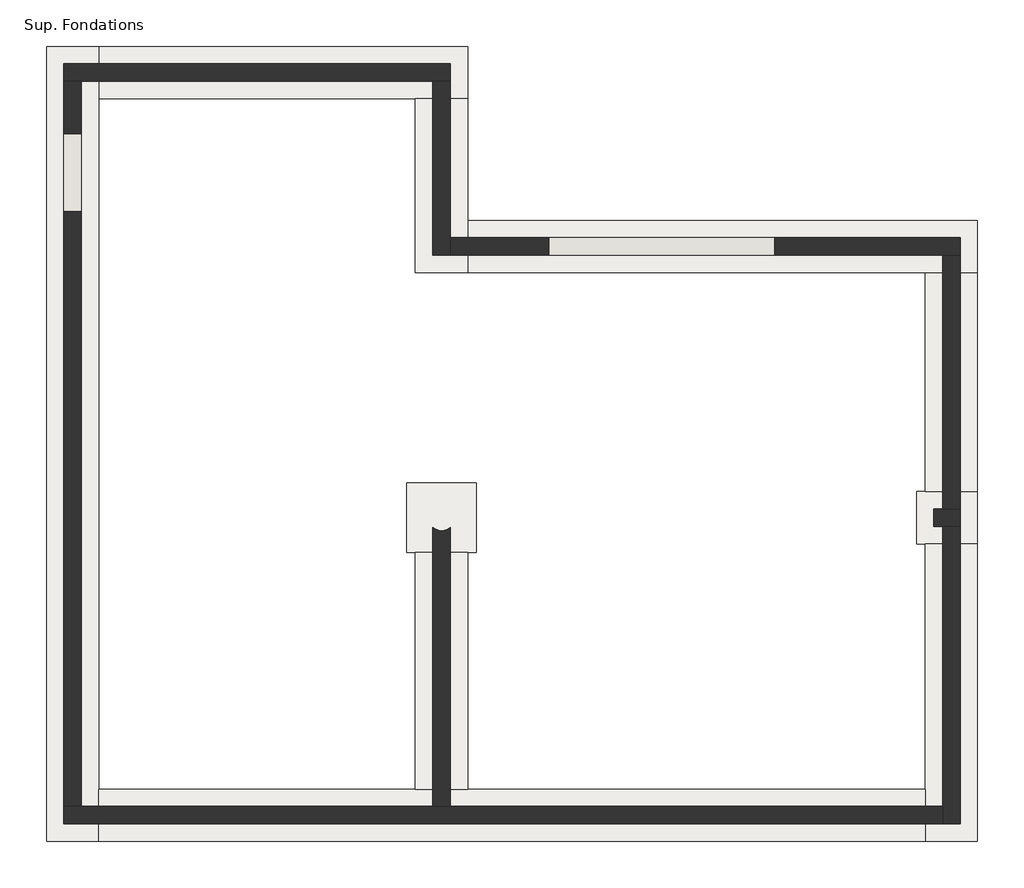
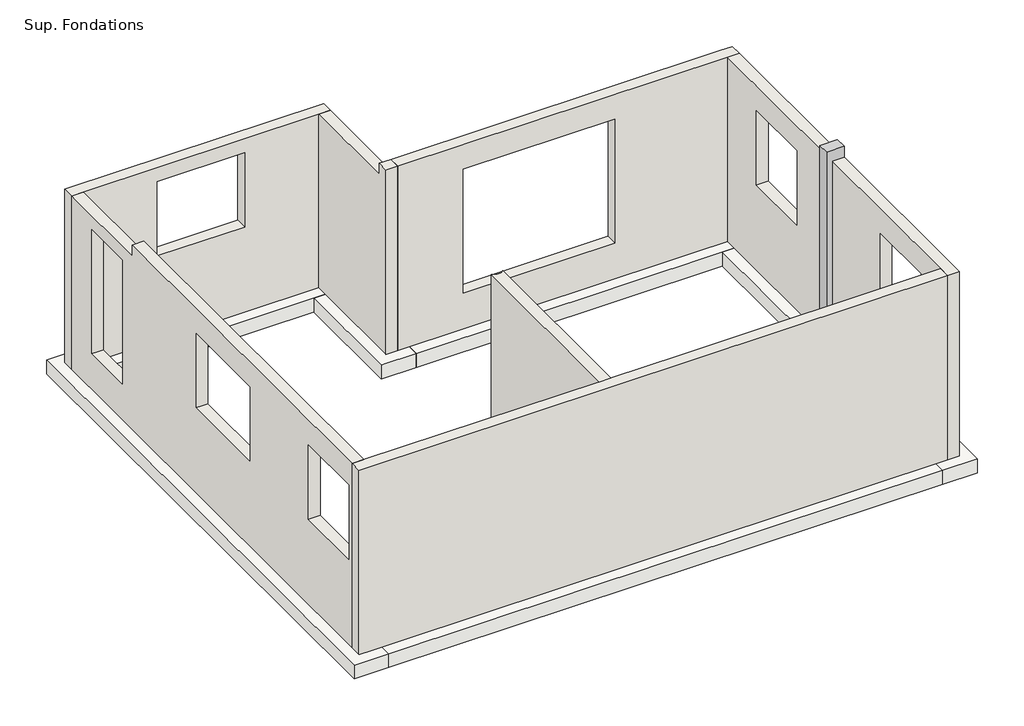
# One storey, incomplete: 7 footings, 7 walls, 2 slabs, 1 column.
"""IFC4 building model written with IfcOpenShell, lengths in millimetres."""

from ifc_helpers import new_model, si_unit, point, frame, frame_2d, origin, place, context, project, spatial, polyline, circle_curve, trimmed, segment, composite_curve, outline, extrude, faceted_brep, element, save

model = new_model("IFC4")

# Units and contexts
model_context = context("Model", 3, world=origin())
ifc_project = project(units=[si_unit("LENGTHUNIT", "METRE", prefix="MILLI")], contexts=[model_context])

# Site, building, storey
site = spatial("IfcSite", under=ifc_project)
building = spatial("IfcBuilding", under=site)
storey = spatial("IfcBuildingStorey", under=building, Name="Sup. Fondations", Elevation=-650.0)

# Column
placement = place(None, origin())
element("IfcColumn", 1, ObjectType="LMO Poteau porteur rectangulaire : LMO Rectangulaire", at=placement, inside=storey, context=model_context, shape_type="Brep", body=[
    faceted_brep([(1554.7267442, -8665.2827088, -650.0), (1354.7267442, -8665.2827088, -650.0), (1254.7267442, -8665.2827088, -650.0), (1254.7267442, -8465.2827088, -650.0), (1354.7267442, -8465.2827088, -650.0), (1554.7267442, -8465.2827088, -650.0), (1554.7267442, -8665.2827088, 2900.0), (1254.7267442, -8665.2827088, 2900.0), (1254.7267442, -8665.2827088, 2700.0), (1554.7267442, -8665.2827088, 2700.0), (1254.7267442, -8465.2827088, 2900.0), (1254.7267442, -8465.2827088, 2700.0), (1554.7267442, -8465.2827088, 2900.0), (1554.7267442, -8465.2827088, 2700.0)], [[[0, 1, 2, 3, 4, 5]], [[6, 7, 8, 2, 1, 0, 9]], [[7, 10, 11, 3, 2, 8]], [[10, 12, 13, 5, 4, 3, 11]], [[12, 6, 9, 0, 5, 13]], [[6, 12, 10, 7]]]),
])

# Footings
element("IfcFooting", 2, ObjectType="S600", at=placement, inside=storey, context=model_context, shape_type="Brep", body=[
    faceted_brep([(-8345.2732558, -12285.2827088, -650.0), (-8345.2732558, -11685.2827088, -650.0), (-8345.2732558, -3745.2827088, -650.0), (-8345.2732558, -3145.2827088, -650.0), (-8945.2732558, -3145.2827088, -650.0), (-8945.2732558, -12285.2827088, -650.0), (-8945.2732558, -12285.2827088, -900.0), (-8945.2732558, -3145.2827088, -900.0), (-8345.2732558, -12285.2827088, -900.0), (-8345.2732558, -3145.2827088, -900.0), (-8345.2732558, -3745.2827088, -900.0), (-8345.2732558, -11685.2827088, -900.0)], [[[0, 1, 2, 3, 4, 5]], [[6, 5, 4, 7]], [[8, 6, 7, 9, 10, 11]], [[0, 8, 11, 10, 9, 3, 2, 1]], [[4, 3, 9, 7]], [[0, 5, 6, 8]]]),
])
element("IfcFooting", 3, ObjectType="S600", at=placement, inside=storey, context=model_context, shape_type="Brep", body=[
    faceted_brep([(-4105.2732558, -3745.2827088, -650.0), (-4105.2732558, -3145.2827088, -650.0), (-8345.2732558, -3145.2827088, -650.0), (-8345.2732558, -3745.2827088, -650.0), (-4705.2732558, -3745.2827088, -650.0), (-4105.2732558, -3145.2827088, -900.0), (-8345.2732558, -3145.2827088, -900.0), (-4105.2732558, -3745.2827088, -900.0), (-4705.2732558, -3745.2827088, -900.0), (-8345.2732558, -3745.2827088, -900.0)], [[[0, 1, 2, 3, 4]], [[1, 5, 6, 2]], [[5, 7, 8, 9, 6]], [[7, 0, 4, 3, 9, 8]], [[3, 2, 6, 9]], [[1, 0, 7, 5]]]),
])
element("IfcFooting", 4, ObjectType="S600", at=placement, inside=storey, context=model_context, shape_type="Brep", body=[
    faceted_brep([(-4705.2732558, -5745.2827088, -650.0), (-4105.2732558, -5745.2827088, -650.0), (-4105.2732558, -5145.2827088, -650.0), (-4105.2732558, -3745.2827088, -650.0), (-4705.2732558, -3745.2827088, -650.0), (-4105.2732558, -5745.2827088, -900.0), (-4105.2732558, -5145.2827088, -900.0), (-4105.2732558, -3745.2827088, -900.0), (-4705.2732558, -5745.2827088, -900.0), (-4705.2732558, -3745.2827088, -900.0)], [[[0, 1, 2, 3, 4]], [[1, 5, 6, 7, 3, 2]], [[5, 8, 9, 7, 6]], [[8, 0, 4, 9]], [[4, 3, 7, 9]], [[1, 0, 8, 5]]]),
])
element("IfcFooting", 5, ObjectType="S600", at=placement, inside=storey, context=model_context, shape_type="Brep", body=[
    faceted_brep([(1754.7267442, -5745.2827088, -650.0), (1754.7267442, -5145.2827088, -650.0), (-4105.2732558, -5145.2827088, -650.0), (-4105.2732558, -5745.2827088, -650.0), (1154.7267442, -5745.2827088, -650.0), (1754.7267442, -5145.2827088, -900.0), (-4105.2732558, -5145.2827088, -900.0), (1754.7267442, -5745.2827088, -900.0), (1154.7267442, -5745.2827088, -900.0), (-4105.2732558, -5745.2827088, -900.0)], [[[0, 1, 2, 3, 4]], [[1, 5, 6, 2]], [[5, 7, 8, 9, 6]], [[7, 0, 4, 3, 9, 8]], [[3, 2, 6, 9]], [[1, 0, 7, 5]]]),
])
element("IfcFooting", 6, ObjectType="S600", at=placement, inside=storey, context=model_context, shape_type="Brep", body=[
    faceted_brep([(1754.7267442, -5745.2827088, -650.0), (1154.7267442, -5745.2827088, -650.0), (1154.7267442, -8265.2827088, -650.0), (1754.7267442, -8265.2827088, -650.0), (1754.7267442, -5745.2827088, -900.0), (1754.7267442, -8265.2827088, -900.0), (1154.7267442, -5745.2827088, -900.0), (1154.7267442, -8265.2827088, -900.0)], [[[0, 1, 2, 3]], [[4, 0, 3, 5]], [[6, 4, 5, 7]], [[1, 6, 7, 2]], [[1, 0, 4, 6]], [[3, 2, 7, 5]]]),
    faceted_brep([(1154.7267442, -12285.2827088, -650.0), (1754.7267442, -12285.2827088, -650.0), (1754.7267442, -8865.2827088, -650.0), (1154.7267442, -8865.2827088, -650.0), (1154.7267442, -11685.2827088, -650.0), (1754.7267442, -12285.2827088, -900.0), (1754.7267442, -8865.2827088, -900.0), (1154.7267442, -12285.2827088, -900.0), (1154.7267442, -11685.2827088, -900.0), (1154.7267442, -8865.2827088, -900.0)], [[[0, 1, 2, 3, 4]], [[1, 5, 6, 2]], [[5, 7, 8, 9, 6]], [[7, 0, 4, 3, 9, 8]], [[1, 0, 7, 5]], [[3, 2, 6, 9]]]),
])
element("IfcFooting", 7, ObjectType="S600", at=placement, inside=storey, context=model_context, shape_type="Brep", body=[
    faceted_brep([(-8345.2732558, -11685.2827088, -650.0), (-8345.2732558, -12285.2827088, -650.0), (1154.7267442, -12285.2827088, -650.0), (1154.7267442, -11685.2827088, -650.0), (-4105.2732558, -11685.2827088, -650.0), (-4705.2732558, -11685.2827088, -650.0), (-8345.2732558, -12285.2827088, -900.0), (1154.7267442, -12285.2827088, -900.0), (-8345.2732558, -11685.2827088, -900.0), (-4705.2732558, -11685.2827088, -900.0), (-4105.2732558, -11685.2827088, -900.0), (1154.7267442, -11685.2827088, -900.0)], [[[0, 1, 2, 3, 4, 5]], [[1, 6, 7, 2]], [[6, 8, 9, 10, 11, 7]], [[8, 0, 5, 4, 3, 11, 10, 9]], [[1, 0, 8, 6]], [[3, 2, 7, 11]]]),
])
element("IfcFooting", 8, ObjectType="S600", at=placement, inside=storey, context=model_context, shape_type="SweptSolid", body=[
    extrude(outline(polyline([(-4105.2732558, -11685.2827088), (-4705.2732558, -11685.2827088), (-4705.2732558, -8965.2827088), (-4105.2732558, -8965.2827088), (-4105.2732558, -11685.2827088)])), frame((0.0, 0.0, -900.0), z_axis=(0.0, 0.0, 1.0), x_axis=(1.0, 0.0, 0.0)), (0.0, 0.0, 1.0), 250.0),
])

# Slabs
element("IfcSlab", 9, ObjectType="LMO Semelle isolée : LMO Semelle isolée", at=placement, inside=storey, context=model_context, shape_type="Brep", body=[
    faceted_brep([(1754.7267442, -8265.2827088, -650.0), (1154.7267442, -8265.2827088, -650.0), (1054.7267442, -8265.2827088, -650.0), (1054.7267442, -8865.2827088, -650.0), (1154.7267442, -8865.2827088, -650.0), (1754.7267442, -8865.2827088, -650.0), (1754.7267442, -8265.2827088, -950.0), (1754.7267442, -8865.2827088, -950.0), (1054.7267442, -8865.2827088, -950.0), (1054.7267442, -8265.2827088, -950.0), (1754.7267442, -8265.2827088, -900.0), (1754.7267442, -8865.2827088, -900.0)], [[[0, 1, 2, 3, 4, 5]], [[6, 7, 8, 9]], [[2, 1, 0, 10, 6, 9]], [[3, 2, 9, 8]], [[5, 4, 3, 8, 7, 11]], [[0, 5, 11, 7, 6, 10]]]),
])
element("IfcSlab", 10, ObjectType="LMO Semelle isolée : LMO Semelle isolée", at=placement, inside=storey, context=model_context, shape_type="Brep", body=[
    faceted_brep([(-4005.2732558, -8165.2827088, -650.0), (-4805.2732558, -8165.2827088, -650.0), (-4805.2732558, -8965.2827088, -650.0), (-4705.2732558, -8965.2827088, -650.0), (-4105.2732558, -8965.2827088, -650.0), (-4005.2732558, -8965.2827088, -650.0), (-4005.2732558, -8165.2827088, -950.0), (-4005.2732558, -8965.2827088, -950.0), (-4805.2732558, -8965.2827088, -950.0), (-4805.2732558, -8165.2827088, -950.0)], [[[0, 1, 2, 3, 4, 5]], [[6, 7, 8, 9]], [[1, 0, 6, 9]], [[2, 1, 9, 8]], [[5, 4, 3, 2, 8, 7]], [[0, 5, 7, 6]]]),
])

# Walls
element("IfcWall", 11, ObjectType="Générique - 200 mm", at=placement, inside=storey, context=model_context, shape_type="Brep", body=[
    faceted_brep([(-8745.2732558, -3545.2827088, -650.0), (-8545.2732558, -3545.2827088, -650.0), (-4505.2732558, -3545.2827088, -650.0), (-4305.2732558, -3545.2827088, -650.0), (-4305.2732558, -3545.2827088, 2500.0), (-4505.2732558, -3545.2827088, 2500.0), (-8545.2732558, -3545.2827088, 2500.0), (-8745.2732558, -3545.2827088, 2500.0), (-7275.2732558, -3545.2827088, 2250.0), (-5775.2732558, -3545.2827088, 2250.0), (-5775.2732558, -3545.2827088, 900.0), (-7275.2732558, -3545.2827088, 900.0), (-8745.2732558, -3345.2827088, -650.0), (-8745.2732558, -3345.2827088, 2500.0), (-4305.2732558, -3345.2827088, 2500.0), (-4305.2732558, -3345.2827088, -650.0), (-7275.2732558, -3345.2827088, 2250.0), (-7275.2732558, -3345.2827088, 900.0), (-5775.2732558, -3345.2827088, 900.0), (-5775.2732558, -3345.2827088, 2250.0)], [[[0, 1, 2, 3, 4, 5, 6, 7], [8, 9, 10, 11]], [[12, 13, 14, 15], [16, 17, 18, 19]], [[3, 2, 1, 0, 12, 15]], [[4, 3, 15, 14]], [[0, 7, 13, 12]], [[7, 6, 5, 4, 14, 13]], [[17, 16, 8, 11]], [[18, 17, 11, 10]], [[19, 18, 10, 9]], [[16, 19, 9, 8]]]),
])
element("IfcWall", 12, ObjectType="Générique - 200 mm", at=placement, inside=storey, context=model_context, shape_type="Brep", body=[
    faceted_brep([(-4505.2732558, -3545.2827088, -650.0), (-4505.2732558, -5545.2827088, -650.0), (-4505.2732558, -5545.2827088, 2700.0), (-4505.2732558, -5345.2827088, 2700.0), (-4505.2732558, -5345.2827088, 2500.0), (-4505.2732558, -3545.2827088, 2500.0), (-4305.2732558, -3545.2827088, -650.0), (-4305.2732558, -3545.2827088, 2500.0), (-4305.2732558, -5345.2827088, 2500.0), (-4305.2732558, -5345.2827088, 2700.0), (-4305.2732558, -5545.2827088, 2700.0), (-4305.2732558, -5545.2827088, -650.0), (-4305.2732558, -5345.2827088, -650.0)], [[[0, 1, 2, 3, 4, 5]], [[6, 7, 8, 9, 10, 11, 12]], [[1, 0, 6, 12, 11]], [[0, 5, 7, 6]], [[2, 1, 11, 10]], [[3, 9, 8, 4]], [[3, 2, 10, 9]], [[5, 4, 8, 7]]]),
])
element("IfcWall", 13, ObjectType="Générique - 200 mm", at=placement, inside=storey, context=model_context, shape_type="Brep", body=[
    faceted_brep([(-4305.2732558, -5545.2827088, -650.0), (1354.7267442, -5545.2827088, -650.0), (1554.7267442, -5545.2827088, -650.0), (1554.7267442, -5545.2827088, 2700.0), (1354.7267442, -5545.2827088, 2700.0), (-4305.2732558, -5545.2827088, 2700.0), (-575.2732558, -5545.2827088, 2250.0), (-575.2732558, -5545.2827088, 0.0), (-3175.2732558, -5545.2827088, 0.0), (-3175.2732558, -5545.2827088, 2250.0), (-4305.2732558, -5345.2827088, -650.0), (-4305.2732558, -5345.2827088, 2500.0), (-4305.2732558, -5345.2827088, 2700.0), (1354.7267442, -5345.2827088, 2700.0), (1554.7267442, -5345.2827088, 2700.0), (1554.7267442, -5345.2827088, 2500.0), (1554.7267442, -5345.2827088, -650.0), (-575.2732558, -5345.2827088, 2250.0), (-3175.2732558, -5345.2827088, 2250.0), (-3175.2732558, -5345.2827088, 0.0), (-575.2732558, -5345.2827088, 0.0)], [[[0, 1, 2, 3, 4, 5], [6, 7, 8, 9]], [[10, 11, 12, 13, 14, 15, 16], [17, 18, 19, 20]], [[2, 1, 0, 10, 16]], [[0, 5, 12, 11, 10]], [[3, 2, 16, 15, 14]], [[5, 4, 3, 14, 13, 12]], [[7, 6, 17, 20]], [[8, 7, 20, 19]], [[9, 8, 19, 18]], [[6, 9, 18, 17]]]),
])
element("IfcWall", 14, ObjectType="Générique - 200 mm", at=placement, inside=storey, context=model_context, shape_type="Brep", body=[
    faceted_brep([(1354.7267442, -5545.2827088, 2700.0), (1354.7267442, -5545.2827088, -650.0), (1354.7267442, -8465.2827088, -650.0), (1354.7267442, -8465.2827088, 2700.0), (1354.7267442, -7605.2827088, 2250.0), (1354.7267442, -7605.2827088, 900.0), (1354.7267442, -6405.2827088, 900.0), (1354.7267442, -6405.2827088, 2250.0), (1554.7267442, -5545.2827088, -650.0), (1554.7267442, -5545.2827088, 2700.0), (1554.7267442, -8465.2827088, 2700.0), (1554.7267442, -8465.2827088, -650.0), (1554.7267442, -7605.2827088, 900.0), (1554.7267442, -7605.2827088, 2250.0), (1554.7267442, -6405.2827088, 2250.0), (1554.7267442, -6405.2827088, 900.0)], [[[0, 1, 2, 3], [4, 5, 6, 7]], [[8, 9, 10, 11], [12, 13, 14, 15]], [[1, 8, 11, 2]], [[1, 0, 9, 8]], [[3, 2, 11, 10]], [[9, 0, 3, 10]], [[5, 4, 13, 12]], [[6, 5, 12, 15]], [[7, 6, 15, 14]], [[4, 7, 14, 13]]]),
    faceted_brep([(1354.7267442, -12085.2827088, -650.0), (1354.7267442, -12085.2827088, 2700.0), (1354.7267442, -11885.2827088, 2700.0), (1354.7267442, -8665.2827088, 2700.0), (1354.7267442, -8665.2827088, -650.0), (1354.7267442, -11885.2827088, -650.0), (1354.7267442, -11285.2827088, 2250.0), (1354.7267442, -11285.2827088, 900.0), (1354.7267442, -10085.2827088, 900.0), (1354.7267442, -10085.2827088, 2250.0), (1554.7267442, -12085.2827088, 2700.0), (1554.7267442, -12085.2827088, -650.0), (1554.7267442, -8665.2827088, -650.0), (1554.7267442, -8665.2827088, 2700.0), (1554.7267442, -11285.2827088, 900.0), (1554.7267442, -11285.2827088, 2250.0), (1554.7267442, -10085.2827088, 2250.0), (1554.7267442, -10085.2827088, 900.0)], [[[0, 1, 2, 3, 4, 5], [6, 7, 8, 9]], [[10, 11, 12, 13], [14, 15, 16, 17]], [[11, 0, 5, 4, 12]], [[1, 0, 11, 10]], [[4, 3, 13, 12]], [[1, 10, 13, 3, 2]], [[7, 6, 15, 14]], [[8, 7, 14, 17]], [[9, 8, 17, 16]], [[6, 9, 16, 15]]]),
])
element("IfcWall", 15, ObjectType="Générique - 200 mm", at=placement, inside=storey, context=model_context, shape_type="Brep", body=[
    faceted_brep([(1354.7267442, -11885.2827088, -650.0), (-4305.2732558, -11885.2827088, -650.0), (-4505.2732558, -11885.2827088, -650.0), (-8545.2732558, -11885.2827088, -650.0), (-8745.2732558, -11885.2827088, -650.0), (-8745.2732558, -11885.2827088, 2700.0), (-8545.2732558, -11885.2827088, 2700.0), (-4505.2732558, -11885.2827088, 2700.0), (-4305.2732558, -11885.2827088, 2700.0), (-3105.2732558, -11885.2827088, 2700.0), (1354.7267442, -11885.2827088, 2700.0), (1354.7267442, -12085.2827088, -650.0), (1354.7267442, -12085.2827088, 2700.0), (-8745.2732558, -12085.2827088, 2700.0), (-8745.2732558, -12085.2827088, -650.0)], [[[0, 1, 2, 3, 4, 5, 6, 7, 8, 9, 10]], [[11, 12, 13, 14]], [[4, 3, 2, 1, 0, 11, 14]], [[0, 10, 12, 11]], [[5, 4, 14, 13]], [[10, 9, 8, 7, 6, 5, 13, 12]]]),
])
element("IfcWall", 16, ObjectType="Générique - 200 mm", at=placement, inside=storey, context=model_context, shape_type="Brep", body=[
    faceted_brep([(-8545.2732558, -11885.2827088, -650.0), (-8545.2732558, -3545.2827088, -650.0), (-8545.2732558, -3545.2827088, 2500.0), (-8545.2732558, -5345.2827088, 2500.0), (-8545.2732558, -5345.2827088, 2700.0), (-8545.2732558, -5545.2827088, 2700.0), (-8545.2732558, -11885.2827088, 2700.0), (-8545.2732558, -4145.2827088, 2250.0), (-8545.2732558, -4145.2827088, 0.0), (-8545.2732558, -5045.2827088, 0.0), (-8545.2732558, -5045.2827088, 2250.0), (-8545.2732558, -7245.2827088, 2250.0), (-8545.2732558, -7245.2827088, 900.0), (-8545.2732558, -8845.2827088, 900.0), (-8545.2732558, -8845.2827088, 2250.0), (-8545.2732558, -10585.2827088, 2250.0), (-8545.2732558, -10585.2827088, 900.0), (-8545.2732558, -11785.2827088, 900.0), (-8545.2732558, -11785.2827088, 2250.0), (-8745.2732558, -11885.2827088, -650.0), (-8745.2732558, -11885.2827088, 2700.0), (-8745.2732558, -5345.2827088, 2700.0), (-8745.2732558, -5345.2827088, 2500.0), (-8745.2732558, -3545.2827088, 2500.0), (-8745.2732558, -3545.2827088, -650.0), (-8745.2732558, -4145.2827088, 2250.0), (-8745.2732558, -5045.2827088, 2250.0), (-8745.2732558, -5045.2827088, 0.0), (-8745.2732558, -4145.2827088, 0.0), (-8745.2732558, -7245.2827088, 2250.0), (-8745.2732558, -8845.2827088, 2250.0), (-8745.2732558, -8845.2827088, 900.0), (-8745.2732558, -7245.2827088, 900.0), (-8745.2732558, -10585.2827088, 2250.0), (-8745.2732558, -11785.2827088, 2250.0), (-8745.2732558, -11785.2827088, 900.0), (-8745.2732558, -10585.2827088, 900.0)], [[[0, 1, 2, 3, 4, 5, 6], [7, 8, 9, 10], [11, 12, 13, 14], [15, 16, 17, 18]], [[19, 20, 21, 22, 23, 24], [25, 26, 27, 28], [29, 30, 31, 32], [33, 34, 35, 36]], [[1, 0, 19, 24]], [[2, 1, 24, 23]], [[0, 6, 20, 19]], [[21, 4, 3, 22]], [[3, 2, 23, 22]], [[6, 5, 4, 21, 20]], [[8, 7, 25, 28]], [[9, 8, 28, 27]], [[10, 9, 27, 26]], [[7, 10, 26, 25]], [[12, 11, 29, 32]], [[13, 12, 32, 31]], [[14, 13, 31, 30]], [[11, 14, 30, 29]], [[16, 15, 33, 36]], [[17, 16, 36, 35]], [[18, 17, 35, 34]], [[15, 18, 34, 33]]]),
])
element("IfcWall", 17, ObjectType="Générique - 200 mm", at=placement, inside=storey, context=model_context, shape_type="SweptSolid", body=[
    extrude(outline(composite_curve([segment(polyline([(-4305.2732558, -11885.2827088), (-4505.2732558, -11885.2827088), (-4505.2732558, -8677.0861077)]), True, "CONTINUOUS"), segment(trimmed(circle_curve(frame_2d((-4405.2732558, -8565.2827088)), 150.0), [point((-4505.2732558, -8677.0861077))], [point((-4305.2732558, -8677.0861077))], True, "CARTESIAN"), True, "CONTINUOUS"), segment(polyline([(-4305.2732558, -8677.0861077), (-4305.2732558, -11885.2827088)]), True, "CONTINUOUS")], self_intersect=False)), frame((0.0, 0.0, -650.0), z_axis=(0.0, 0.0, 1.0), x_axis=(1.0, 0.0, 0.0)), (0.0, 0.0, 1.0), 3350.0),
])

save(model, "model.ifc")
